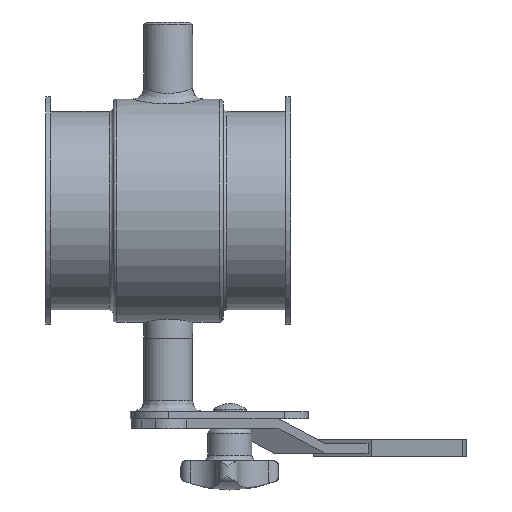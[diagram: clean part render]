
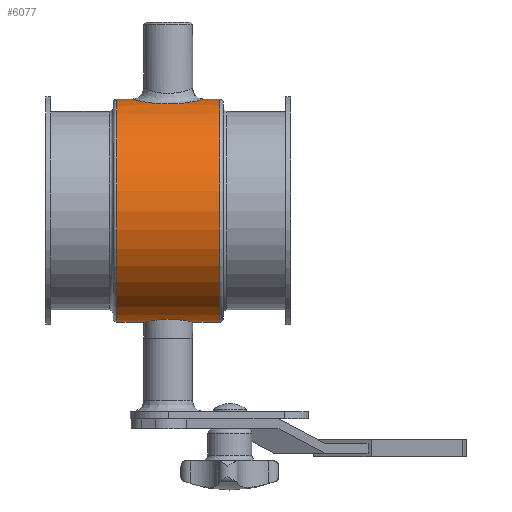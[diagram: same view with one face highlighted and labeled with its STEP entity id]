
A CAD part, left-side view. The second image highlights one B-rep face of the part: STEP entity #6077.
In plain terms, the highlighted cylindrical face has radius 45.5 mm (diameter 91 mm), a full revolution.
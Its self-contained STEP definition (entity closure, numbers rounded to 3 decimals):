
#5968=CARTESIAN_POINT('',(-53.695,50.041,43.545));
#5969=VERTEX_POINT('',#5968);
#5979=CARTESIAN_POINT('',(-53.697,50.041,43.543));
#5980=CARTESIAN_POINT('',(-53.697,50.041,43.543));
#5981=CARTESIAN_POINT('',(-53.697,50.041,43.543));
#5982=CARTESIAN_POINT('',(-53.697,50.041,43.543));
#5983=CARTESIAN_POINT('',(-53.697,47.872,43.543));
#5984=CARTESIAN_POINT('',(-52.787,43.526,43.834));
#5985=CARTESIAN_POINT('',(-49.03,38.344,44.78));
#5986=CARTESIAN_POINT('',(-43.58,35.426,45.528));
#5987=CARTESIAN_POINT('',(-37.455,35.417,45.532));
#5988=CARTESIAN_POINT('',(-31.99,38.327,44.782));
#5989=CARTESIAN_POINT('',(-28.646,42.923,43.945));
#5990=CARTESIAN_POINT('',(-27.258,47.815,43.532));
#5991=CARTESIAN_POINT('',(-27.255,52.242,43.529));
#5992=CARTESIAN_POINT('',(-28.83,57.849,44.004));
#5993=CARTESIAN_POINT('',(-32.539,62.232,44.908));
#5994=CARTESIAN_POINT('',(-38.116,64.658,45.53));
#5995=CARTESIAN_POINT('',(-43.556,64.662,45.529));
#5996=CARTESIAN_POINT('',(-49.013,61.747,44.782));
#5997=CARTESIAN_POINT('',(-52.779,56.583,43.837));
#5998=CARTESIAN_POINT('',(-53.697,52.21,43.543));
#5999=CARTESIAN_POINT('',(-53.697,50.041,43.543));
#6000=B_SPLINE_CURVE_WITH_KNOTS('',3,(#5979,#5980,#5981,#5982,#5983,#5984,#5985,#5986,#5987,#5988,#5989,#5990,#5991,#5992,#5993,#5994,#5995,#5996,#5997,#5998,#5999),.UNSPECIFIED.,.T.,.U.,(4,3,1,1,1,1,1,1,1,1,1,1,1,1,1,1,4),(-6.048,-6.048,-5.616,-5.184,-4.752,-4.32,-3.888,-3.456,-3.168,-2.88,-2.592,-2.016,-1.728,-1.296,-0.864,-0.432,0.),.UNSPECIFIED.);
#6001=EDGE_CURVE('',#5969,#5969,#6000,.T.);
#6006=CARTESIAN_POINT('',(-40.5,50.041,0.0));
#6007=DIRECTION('',(0.,-1.0,0.0));
#6008=DIRECTION('',(1.0,0.0,0.0));
#6009=AXIS2_PLACEMENT_3D('',#6006,#6007,#6008);
#6010=CYLINDRICAL_SURFACE('',#6009,45.5);
#6011=CARTESIAN_POINT('',(5.,71.041,0.0));
#6012=VERTEX_POINT('',#6011);
#6013=CARTESIAN_POINT('',(-40.5,71.041,0.0));
#6014=DIRECTION('',(0.0,-1.0,0.0));
#6015=DIRECTION('',(1.0,0.0,0.0));
#6016=AXIS2_PLACEMENT_3D('',#6013,#6014,#6015);
#6017=CIRCLE('',#6016,45.5);
#6018=EDGE_CURVE('',#6012,#6012,#6017,.T.);
#6019=ORIENTED_EDGE('',*,*,#6018,.T.);
#6020=EDGE_LOOP('',(#6019));
#6021=FACE_OUTER_BOUND('',#6020,.T.);
#6022=CARTESIAN_POINT('',(5.,29.041,0.0));
#6023=VERTEX_POINT('',#6022);
#6024=CARTESIAN_POINT('',(-40.5,29.041,0.0));
#6025=DIRECTION('',(0.0,-1.0,0.0));
#6026=DIRECTION('',(1.0,0.0,0.0));
#6027=AXIS2_PLACEMENT_3D('',#6024,#6025,#6026);
#6028=CIRCLE('',#6027,45.5);
#6029=EDGE_CURVE('',#6023,#6023,#6028,.T.);
#6030=ORIENTED_EDGE('',*,*,#6029,.F.);
#6031=EDGE_LOOP('',(#6030));
#6032=FACE_BOUND('',#6031,.T.);
#6033=CARTESIAN_POINT('',(-50.5,50.041,-44.387));
#6034=VERTEX_POINT('',#6033);
#6035=CARTESIAN_POINT('',(-50.5,50.041,-44.387));
#6036=CARTESIAN_POINT('',(-50.5,48.781,-44.387));
#6037=CARTESIAN_POINT('',(-50.247,47.44,-44.447));
#6038=CARTESIAN_POINT('',(-49.226,44.977,-44.659));
#6039=CARTESIAN_POINT('',(-48.457,43.856,-44.808));
#6040=CARTESIAN_POINT('',(-46.686,42.084,-45.086));
#6041=CARTESIAN_POINT('',(-45.564,41.316,-45.234));
#6042=CARTESIAN_POINT('',(-43.101,40.294,-45.442));
#6043=CARTESIAN_POINT('',(-41.76,40.041,-45.5));
#6044=CARTESIAN_POINT('',(-39.24,40.041,-45.5));
#6045=CARTESIAN_POINT('',(-37.899,40.294,-45.442));
#6046=CARTESIAN_POINT('',(-35.436,41.316,-45.234));
#6047=CARTESIAN_POINT('',(-34.314,42.084,-45.086));
#6048=CARTESIAN_POINT('',(-32.543,43.856,-44.808));
#6049=CARTESIAN_POINT('',(-31.774,44.977,-44.659));
#6050=CARTESIAN_POINT('',(-30.753,47.44,-44.447));
#6051=CARTESIAN_POINT('',(-30.5,48.781,-44.387));
#6052=CARTESIAN_POINT('',(-30.5,51.301,-44.387));
#6053=CARTESIAN_POINT('',(-30.753,52.642,-44.447));
#6054=CARTESIAN_POINT('',(-31.774,55.105,-44.659));
#6055=CARTESIAN_POINT('',(-32.543,56.227,-44.808));
#6056=CARTESIAN_POINT('',(-34.314,57.998,-45.086));
#6057=CARTESIAN_POINT('',(-35.436,58.767,-45.234));
#6058=CARTESIAN_POINT('',(-37.899,59.788,-45.442));
#6059=CARTESIAN_POINT('',(-39.24,60.041,-45.5));
#6060=CARTESIAN_POINT('',(-41.76,60.041,-45.5));
#6061=CARTESIAN_POINT('',(-43.101,59.788,-45.442));
#6062=CARTESIAN_POINT('',(-45.564,58.767,-45.234));
#6063=CARTESIAN_POINT('',(-46.686,57.998,-45.086));
#6064=CARTESIAN_POINT('',(-48.457,56.227,-44.808));
#6065=CARTESIAN_POINT('',(-49.226,55.105,-44.659));
#6066=CARTESIAN_POINT('',(-50.247,52.642,-44.447));
#6067=CARTESIAN_POINT('',(-50.5,51.301,-44.387));
#6068=CARTESIAN_POINT('',(-50.5,50.041,-44.387));
#6069=B_SPLINE_CURVE_WITH_KNOTS('',3,(#6035,#6036,#6037,#6038,#6039,#6040,#6041,#6042,#6043,#6044,#6045,#6046,#6047,#6048,#6049,#6050,#6051,#6052,#6053,#6054,#6055,#6056,#6057,#6058,#6059,#6060,#6061,#6062,#6063,#6064,#6065,#6066,#6067,#6068),.UNSPECIFIED.,.T.,.U.,(4,2,2,2,2,2,2,2,2,2,2,2,2,2,2,2,4),(0.0,0.378,0.756,1.134,1.512,1.89,2.268,2.646,3.024,3.402,3.78,4.158,4.536,4.914,5.292,5.67,6.048),.UNSPECIFIED.);
#6070=EDGE_CURVE('',#6034,#6034,#6069,.T.);
#6071=ORIENTED_EDGE('',*,*,#6070,.T.);
#6072=EDGE_LOOP('',(#6071));
#6073=FACE_BOUND('',#6072,.T.);
#6074=ORIENTED_EDGE('',*,*,#6001,.F.);
#6075=EDGE_LOOP('',(#6074));
#6076=FACE_BOUND('',#6075,.T.);
#6077=ADVANCED_FACE('',(#6021,#6032,#6073,#6076),#6010,.T.);
